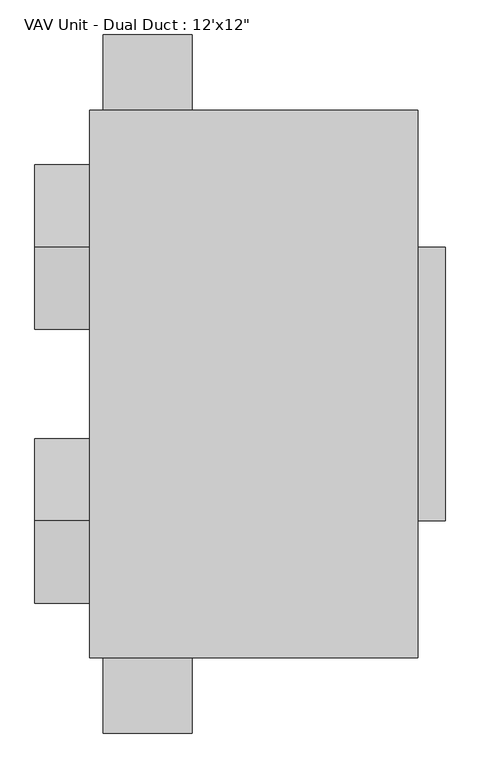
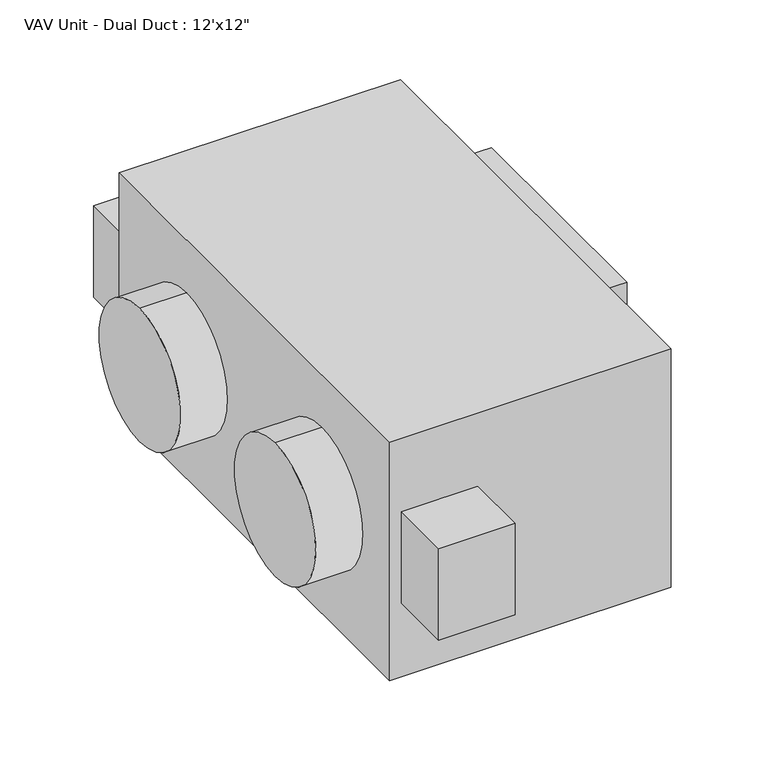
"""IFC4 building model written with IfcOpenShell, lengths in millimetres: proxy geometry."""

from ifc_helpers import new_model, si_unit, point, frame, frame_2d, origin, origin_with_axes, place, context, project, spatial, polyline, circle_curve, trimmed, segment, composite_curve, outline, extrude, source, transform, mapped, element, save


def proxy_a372933c(model_context):
    return source(origin(), model_context, "Body", "SweptSolid", [
        extrude(outline(composite_curve([segment(trimmed(circle_curve(frame_2d((-254.0, 273.05)), 152.4), [point((-254.0, 425.45))], [point((-254.0, 120.65))], False, "CARTESIAN"), True, "CONTINUOUS"), segment(trimmed(circle_curve(frame_2d((-254.0, 273.05)), 152.4), [point((-254.0, 120.65))], [point((-254.0, 425.45))], False, "CARTESIAN"), True, "CONTINUOUS")], self_intersect=False)), frame((-101.6, 0.0, 0.0), z_axis=(1.0, 0.0, 0.0), x_axis=(0.0, 1.0, 0.0)), (0.0, 0.0, 1.0), 101.6),
        extrude(outline(composite_curve([segment(trimmed(circle_curve(frame_2d((254.0, 273.05)), 152.4), [point((254.0, 425.45))], [point((254.0, 120.65))], False, "CARTESIAN"), True, "CONTINUOUS"), segment(trimmed(circle_curve(frame_2d((254.0, 273.05)), 152.4), [point((254.0, 120.65))], [point((254.0, 425.45))], False, "CARTESIAN"), True, "CONTINUOUS")], self_intersect=False)), frame((-101.6, 0.0, 0.0), z_axis=(1.0, 0.0, 0.0), x_axis=(0.0, 1.0, 0.0)), (0.0, 0.0, 1.0), 101.6),
        extrude(outline(polyline([(190.5, 647.7), (190.5, 508.0), (25.4, 508.0), (25.4, 647.7), (190.5, 647.7)])), frame((0.0, 0.0, 168.275), z_axis=(0.0, 0.0, 1.0), x_axis=(1.0, 0.0, 0.0)), (0.0, 0.0, 1.0), 209.55),
        extrude(outline(polyline([(190.5, -508.0), (190.5, -647.7), (25.4, -647.7), (25.4, -508.0), (190.5, -508.0)])), frame((0.0, 0.0, 168.275), z_axis=(0.0, 0.0, 1.0), x_axis=(1.0, 0.0, 0.0)), (0.0, 0.0, 1.0), 209.55),
        extrude(outline(polyline([(660.4, 254.0), (660.4, -254.0), (609.6, -254.0), (609.6, 254.0), (660.4, 254.0)])), frame((0.0, 0.0, 19.05), z_axis=(0.0, 0.0, 1.0), x_axis=(1.0, 0.0, 0.0)), (0.0, 0.0, 1.0), 508.0),
        extrude(outline(polyline([(609.6, 508.0), (609.6, -508.0), (0.0, -508.0), (0.0, 508.0), (609.6, 508.0)])), origin_with_axes(), (0.0, 0.0, 1.0), 546.1),
    ])


if __name__ == "__main__":
    model = new_model("IFC4")
    model_context = context("Model", 3, world=origin())
    ifc_project = project(units=[si_unit("LENGTHUNIT", "METRE", prefix="MILLI")], contexts=[model_context])
    site = spatial("IfcSite", under=ifc_project)
    building = spatial("IfcBuilding", under=site)
    placement = place(None, origin())
    proxy_shape = proxy_a372933c(model_context)
    element("IfcBuildingElementProxy", 1, Name="VAV Unit - Dual Duct : 12'x12\"", ObjectType="VAV Unit - Dual Duct : 12'x12\"", at=placement, inside=building, context=model_context, shape_type="MappedRepresentation", body=[
        mapped(proxy_shape, transform((0.0, 0.0, 0.0), x_axis=(1.0, 0.0, 0.0), y_axis=(0.0, 1.0, 0.0), z_axis=(0.0, 0.0, 1.0))),
    ])
    save(model, "model.ifc")
